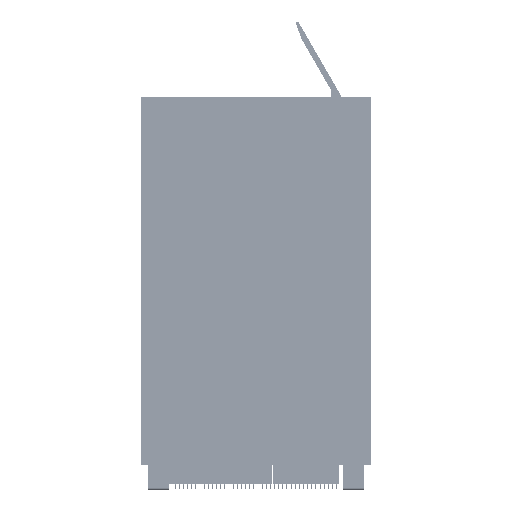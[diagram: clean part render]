
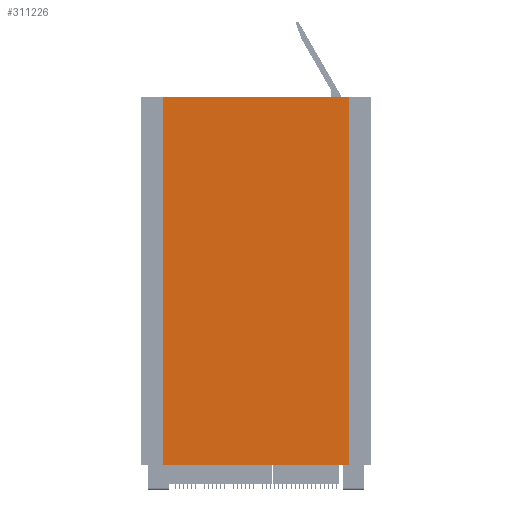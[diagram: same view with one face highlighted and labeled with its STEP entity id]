
A CAD part, front view. The second image highlights one B-rep face of the part: STEP entity #311226.
In plain terms, the highlighted planar face has unit normal (0, -1, 0).
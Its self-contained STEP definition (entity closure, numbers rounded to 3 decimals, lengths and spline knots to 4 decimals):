
#5160 = VERTEX_POINT ( 'NONE', #43754 ) ;
#7617 = EDGE_LOOP ( 'NONE', ( #79104, #567812, #444561, #133143 ) ) ;
#10216 = VECTOR ( 'NONE', #630623, 39.3701 ) ;
#43754 = CARTESIAN_POINT ( 'NONE',  ( -1.5985, -0.755, 0. ) ) ;
#59673 = CARTESIAN_POINT ( 'NONE',  ( 1.5985, -0.755, 0. ) ) ;
#79104 = ORIENTED_EDGE ( 'NONE', *, *, #704491, .T. ) ;
#90051 = AXIS2_PLACEMENT_3D ( 'NONE', #145065, #543472, #202418 ) ;
#133143 = ORIENTED_EDGE ( 'NONE', *, *, #496864, .T. ) ;
#134507 = VECTOR ( 'NONE', #694761, 39.3701 ) ;
#145065 = CARTESIAN_POINT ( 'NONE',  ( 0., -0.755, -6.2992 ) ) ;
#181866 = CARTESIAN_POINT ( 'NONE',  ( 0., -0.755, 0. ) ) ;
#186896 = LINE ( 'NONE', #629778, #605409 ) ;
#202418 = DIRECTION ( 'NONE',  ( -1., 0., 0. ) ) ;
#232450 = CARTESIAN_POINT ( 'NONE',  ( -1.5985, -0.755, -6.2992 ) ) ;
#286021 = LINE ( 'NONE', #181866, #134507 ) ;
#289383 = DIRECTION ( 'NONE',  ( -1., 0., 0. ) ) ;
#293161 = EDGE_CURVE ( 'NONE', #634474, #5160, #295514, .T. ) ;
#295514 = LINE ( 'NONE', #232450, #10216 ) ;
#311226 = ADVANCED_FACE ( 'NONE', ( #340437 ), #712769, .F. ) ;
#340437 = FACE_OUTER_BOUND ( 'NONE', #7617, .T. ) ;
#357198 = EDGE_CURVE ( 'NONE', #559110, #634474, #546745, .T. ) ;
#444561 = ORIENTED_EDGE ( 'NONE', *, *, #357198, .F. ) ;
#496864 = EDGE_CURVE ( 'NONE', #559110, #584996, #186896, .T. ) ;
#543472 = DIRECTION ( 'NONE',  ( 0., 1., 0. ) ) ;
#546745 = LINE ( 'NONE', #630276, #698225 ) ;
#559110 = VERTEX_POINT ( 'NONE', #686061 ) ;
#567812 = ORIENTED_EDGE ( 'NONE', *, *, #293161, .F. ) ;
#584996 = VERTEX_POINT ( 'NONE', #59673 ) ;
#605409 = VECTOR ( 'NONE', #687135, 39.3701 ) ;
#629778 = CARTESIAN_POINT ( 'NONE',  ( 1.5985, -0.755, -6.2992 ) ) ;
#630276 = CARTESIAN_POINT ( 'NONE',  ( 0., -0.755, -6.2992 ) ) ;
#630623 = DIRECTION ( 'NONE',  ( 0., 0., 1. ) ) ;
#634474 = VERTEX_POINT ( 'NONE', #727046 ) ;
#686061 = CARTESIAN_POINT ( 'NONE',  ( 1.5985, -0.755, -6.2992 ) ) ;
#687135 = DIRECTION ( 'NONE',  ( 0., 0., 1. ) ) ;
#694761 = DIRECTION ( 'NONE',  ( -1., 0., 0. ) ) ;
#698225 = VECTOR ( 'NONE', #289383, 39.3701 ) ;
#704491 = EDGE_CURVE ( 'NONE', #584996, #5160, #286021, .T. ) ;
#712769 = PLANE ( 'NONE',  #90051 ) ;
#727046 = CARTESIAN_POINT ( 'NONE',  ( -1.5985, -0.755, -6.2992 ) ) ;
